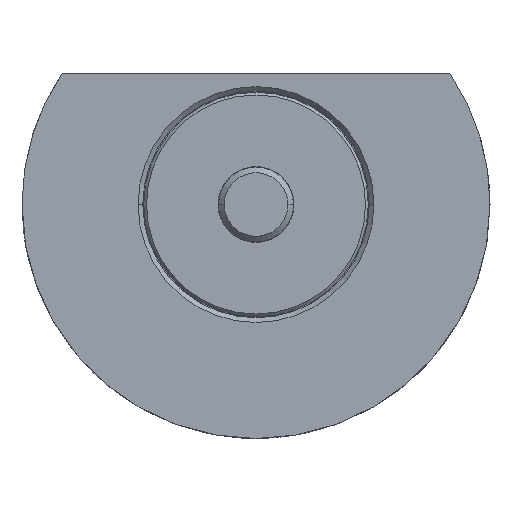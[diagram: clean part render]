
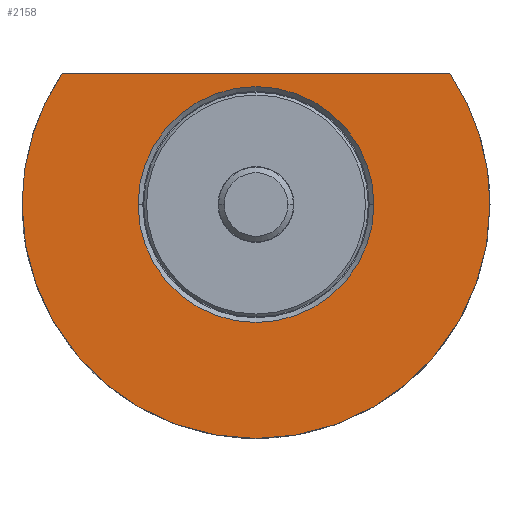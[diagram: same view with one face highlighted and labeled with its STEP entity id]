
A CAD part, front view. The second image highlights one B-rep face of the part: STEP entity #2158.
In plain terms, the highlighted planar face has unit normal (0, -1, 0).
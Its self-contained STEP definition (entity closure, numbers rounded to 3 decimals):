
#59 = EDGE_CURVE ( 'NONE', #993, #1556, #1937, .T. ) ;
#68 = EDGE_CURVE ( 'NONE', #2430, #564, #207, .T. ) ;
#162 = DIRECTION ( 'NONE',  ( 1., 0., 0. ) ) ;
#184 = LINE ( 'NONE', #956, #1652 ) ;
#207 = CIRCLE ( 'NONE', #536, 12.6 ) ;
#233 = DIRECTION ( 'NONE',  ( -1., 0., 0. ) ) ;
#296 = CIRCLE ( 'NONE', #1739, 25. ) ;
#341 = CARTESIAN_POINT ( 'NONE',  ( 12.6, -12., 0. ) ) ;
#410 = DIRECTION ( 'NONE',  ( -1., 0., 0. ) ) ;
#510 = PLANE ( 'NONE',  #1820 ) ;
#536 = AXIS2_PLACEMENT_3D ( 'NONE', #1998, #1830, #410 ) ;
#564 = VERTEX_POINT ( 'NONE', #341 ) ;
#592 = ORIENTED_EDGE ( 'NONE', *, *, #1924, .T. ) ;
#630 = EDGE_CURVE ( 'NONE', #564, #2430, #2231, .T. ) ;
#657 = DIRECTION ( 'NONE',  ( 0., 1., 0. ) ) ;
#725 = FACE_BOUND ( 'NONE', #1147, .T. ) ;
#807 = CARTESIAN_POINT ( 'NONE',  ( 0., -12., 0. ) ) ;
#956 = CARTESIAN_POINT ( 'NONE',  ( -12.6, -12., 14. ) ) ;
#993 = VERTEX_POINT ( 'NONE', #1708 ) ;
#1117 = FACE_OUTER_BOUND ( 'NONE', #1568, .T. ) ;
#1147 = EDGE_LOOP ( 'NONE', ( #1749, #1425 ) ) ;
#1158 = DIRECTION ( 'NONE',  ( 0., 1., 0. ) ) ;
#1196 = DIRECTION ( 'NONE',  ( -1., 0., 0. ) ) ;
#1206 = DIRECTION ( 'NONE',  ( 0., 1., 0. ) ) ;
#1331 = DIRECTION ( 'NONE',  ( -1., 0., 0. ) ) ;
#1345 = CARTESIAN_POINT ( 'NONE',  ( -20.712, -12., 14. ) ) ;
#1348 = CARTESIAN_POINT ( 'NONE',  ( 25., -12., 0. ) ) ;
#1371 = DIRECTION ( 'NONE',  ( -1., 0., 0. ) ) ;
#1425 = ORIENTED_EDGE ( 'NONE', *, *, #68, .T. ) ;
#1432 = CARTESIAN_POINT ( 'NONE',  ( 0., -12., 0. ) ) ;
#1475 = CARTESIAN_POINT ( 'NONE',  ( -12.6, -12., 0. ) ) ;
#1548 = EDGE_CURVE ( 'NONE', #1824, #2492, #2361, .T. ) ;
#1556 = VERTEX_POINT ( 'NONE', #1345 ) ;
#1568 = EDGE_LOOP ( 'NONE', ( #1943, #592, #1981, #2141 ) ) ;
#1590 = DIRECTION ( 'NONE',  ( 0., 1., 0. ) ) ;
#1604 = CARTESIAN_POINT ( 'NONE',  ( 0., -12., 0. ) ) ;
#1652 = VECTOR ( 'NONE', #1331, 1000. ) ;
#1708 = CARTESIAN_POINT ( 'NONE',  ( -25., -12., 0. ) ) ;
#1725 = CARTESIAN_POINT ( 'NONE',  ( 0., -12., 0. ) ) ;
#1739 = AXIS2_PLACEMENT_3D ( 'NONE', #1604, #657, #233 ) ;
#1749 = ORIENTED_EDGE ( 'NONE', *, *, #630, .T. ) ;
#1820 = AXIS2_PLACEMENT_3D ( 'NONE', #2494, #1900, #162 ) ;
#1824 = VERTEX_POINT ( 'NONE', #2395 ) ;
#1830 = DIRECTION ( 'NONE',  ( 0., 1., 0. ) ) ;
#1900 = DIRECTION ( 'NONE',  ( 0., -1., 0. ) ) ;
#1924 = EDGE_CURVE ( 'NONE', #1824, #1556, #184, .T. ) ;
#1937 = CIRCLE ( 'NONE', #2228, 25. ) ;
#1943 = ORIENTED_EDGE ( 'NONE', *, *, #1548, .F. ) ;
#1944 = AXIS2_PLACEMENT_3D ( 'NONE', #1725, #1590, #1371 ) ;
#1981 = ORIENTED_EDGE ( 'NONE', *, *, #59, .F. ) ;
#1998 = CARTESIAN_POINT ( 'NONE',  ( 0., -12., 0. ) ) ;
#2018 = AXIS2_PLACEMENT_3D ( 'NONE', #807, #1158, #1196 ) ;
#2027 = DIRECTION ( 'NONE',  ( -1., 0., 0. ) ) ;
#2141 = ORIENTED_EDGE ( 'NONE', *, *, #2331, .F. ) ;
#2158 = ADVANCED_FACE ( 'NONE', ( #725, #1117 ), #510, .T. ) ;
#2228 = AXIS2_PLACEMENT_3D ( 'NONE', #1432, #1206, #2027 ) ;
#2231 = CIRCLE ( 'NONE', #2018, 12.6 ) ;
#2331 = EDGE_CURVE ( 'NONE', #2492, #993, #296, .T. ) ;
#2361 = CIRCLE ( 'NONE', #1944, 25. ) ;
#2395 = CARTESIAN_POINT ( 'NONE',  ( 20.712, -12., 14. ) ) ;
#2430 = VERTEX_POINT ( 'NONE', #1475 ) ;
#2492 = VERTEX_POINT ( 'NONE', #1348 ) ;
#2494 = CARTESIAN_POINT ( 'NONE',  ( -12.6, -12., 0. ) ) ;
